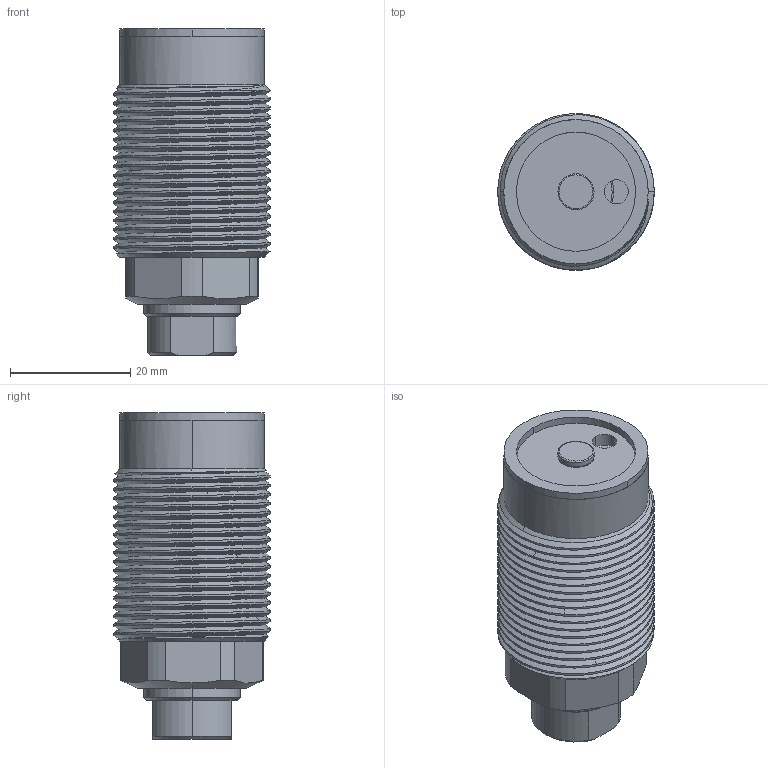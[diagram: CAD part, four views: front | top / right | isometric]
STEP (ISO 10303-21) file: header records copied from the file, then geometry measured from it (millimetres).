
FILE_DESCRIPTION (( 'STEP AP203' ), '1' );
FILE_NAME ('ctc-16b_asm.STEP', '2018-08-13T01:23:21', ( '' ), ( '' ), 'SwSTEP 2.0', 'SolidWorks 2015', '' );
FILE_SCHEMA (( 'CONFIG_CONTROL_DESIGN' ));
Length unit declared in the file: millimetre
Products named in the file (6): CTC-16DP; CTC-16AMD; ctc-16b_asm; CTC-16ABT; CTC-16AHG; CTC-16BHSG
Assembly tree (5 placements, depth 2):
  ctc-16b_asm
    CTC-16ABT
    CTC-16BHSG
    CTC-16AHG
    CTC-16AMD
    CTC-16DP
Bounding box: 26 x 26 x 54.3 mm (x, y, z)
Volume: 18456.2 mm3; surface area: 14799.8 mm2
Topology: 5 solids, 5 shells, 159 faces, 484 edges, 343 vertices
Faces by surface type: cylinder 94, plane 29, bspline 20, cone 16
Entity records: 12154 total; most frequent: CARTESIAN_POINT 7572, ORIENTED_EDGE 962, DIRECTION 640, EDGE_CURVE 481, VERTEX_POINT 343, AXIS2_PLACEMENT_3D 255, B_SPLINE_CURVE_WITH_KNOTS 239, EDGE_LOOP 178
